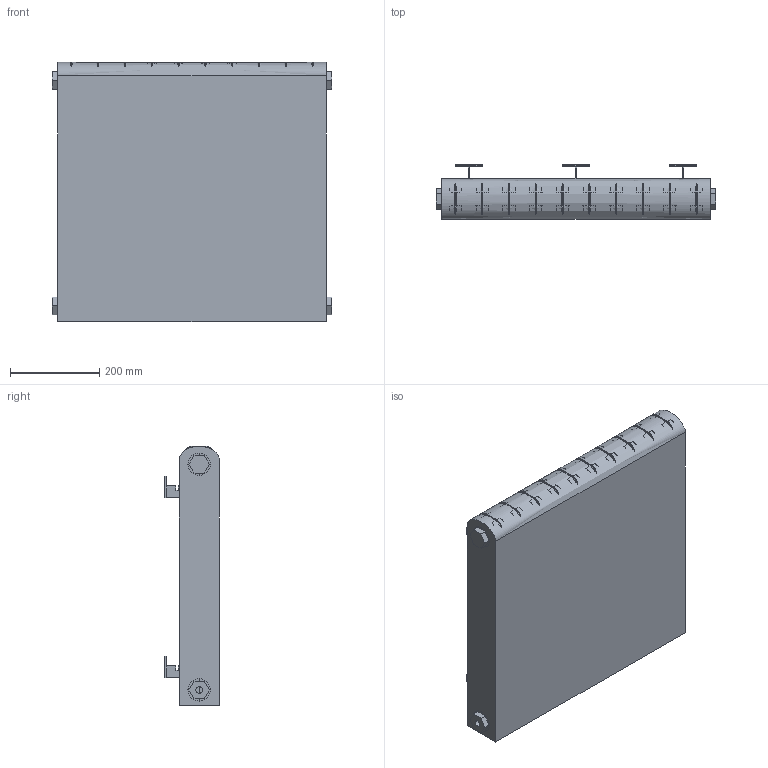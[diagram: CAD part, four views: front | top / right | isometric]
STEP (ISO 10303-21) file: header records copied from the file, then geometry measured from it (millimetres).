
FILE_DESCRIPTION(/* description */ (''),/* implementation_level */ '2;1');
FILE_NAME(/* name */ 'Ionic_2Column_WallMounted',/* time_stamp */ '2026-08-04T19:15:36+03:00',/* author */ (''),/* organization */ (''),/* preprocessor_version */ 'ST-DEVELOPER v20',/* originating_system */ '',/* authorisation */ '');
FILE_SCHEMA (('AP242_MANAGED_MODEL_BASED_3D_ENGINEERING_MIM_LF { 1 0 10303 442 1 1 4 }'));
Length unit declared in the file: millimetre
Products named in the file (6): TopLevelAssembly; Выдавливание; MHS_Ionic_2Column; EndValve; EndValve_1; IonicBracket
Assembly tree (25 placements, depth 2):
  TopLevelAssembly
    Выдавливание
    MHS_Ionic_2Column  x10
    EndValve_1  x2
    EndValve  x2
    IonicBracket  x10
Bounding box: 626 x 122 x 580 mm (x, y, z)
Volume: 42765944.1 mm3; surface area: 2298622.1 mm2
Topology: 45 solids, 45 shells, 1472 faces, 3266 edges, 1964 vertices
Faces by surface type: plane 547, cylinder 524, bspline 401
Entity records: 5309 total; most frequent: CARTESIAN_POINT 1202, DIRECTION 847, ORIENTED_EDGE 742, EDGE_CURVE 371, AXIS2_PLACEMENT_3D 319, VERTEX_POINT 226, LINE 209, VECTOR 209
